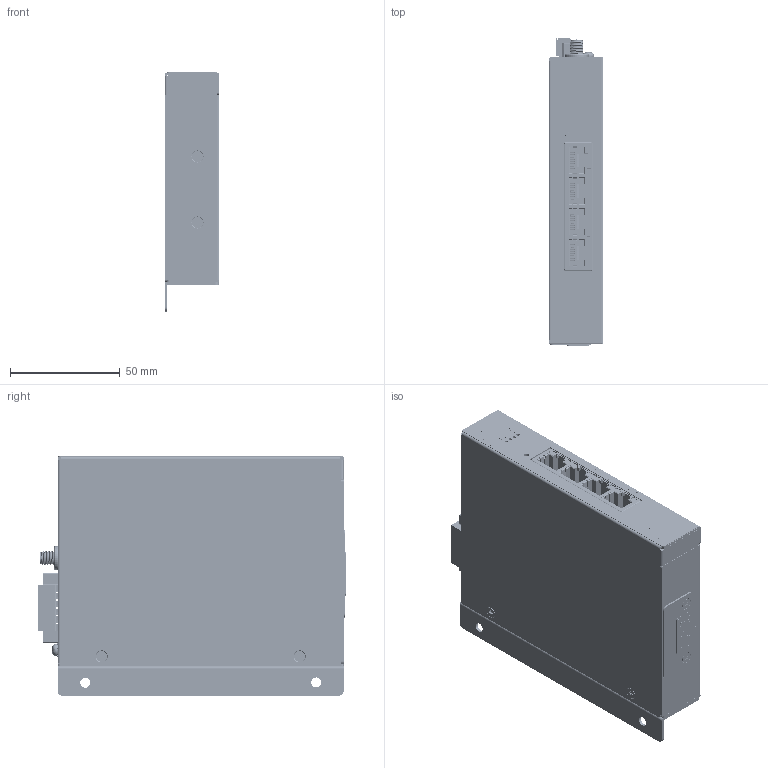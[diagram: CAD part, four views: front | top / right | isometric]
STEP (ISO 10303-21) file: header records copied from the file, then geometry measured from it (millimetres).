
FILE_DESCRIPTION (( 'STEP AP214' ), '1' );
FILE_NAME ('ICR-2501W_Wall_mount.STEP', '2024-10-03T13:38:45', ( '' ), ( '' ), 'SwSTEP 2.0', 'SolidWorks 2024', '' );
FILE_SCHEMA (( 'AUTOMOTIVE_DESIGN' ));
Length unit declared in the file: millimetre
Products named in the file (32): SCR_BK_M3_L5_PH_FL_TW_GLUE; SCR_BK_M3_L5_PH_FL_TW; Plug-In_Block_1x6P; VMC-2024-07-1_Label - DO NOT Insert SIM_A; PUSH_SW_3P; SCR_ZC_M3_L6_PH_PW_2; Pin_Header_5x2P; VMC-2024-07-1_Label - DO NOT Insert SIM; SCR_ZC_M3_L10_PH_BN; PCB-WIFI-20(4,5,6)xx; BTB_20P_Connector; Wall_mount_ICR-2(5,6)xx; Cover_for_ICR_25xx; SCR_ZC_M3_L6_PH_PW; LED_HOLDER_GGGG; Terminal_Block_1x6P; Chassis_for_ICR-25xx(G_W); B-ICR2501 A101-3; ICR-2501W_Wall_mount; Plate_for_SIM_ICR-2(0,4,5,6)xx; PCB_ICR-25(6)xx; Post_D3xL5; Washer_V2i_AUX_W; VMC-2024-07-1_Label - DO NOT Insert SIM_B; RJ45_1x4_8p_Connector; ICR-2501_FRONT_Label; SIM7155-6-1-14-A_PART1; SIM7155-6-1-14-A_PART2; BTB_20P_Conn; Micro_SIM_ card_Connector; SMA_1P; B-ICR-WIFI-20(4,5,6)xx-A107-1
Assembly tree (43 placements, depth 4):
  ICR-2501W_Wall_mount
    B-ICR2501 A101-3
      PCB_ICR-25(6)xx
      Micro_SIM_ card_Connector  x2
        SIM7155-6-1-14-A_PART1
        SIM7155-6-1-14-A_PART2
      Terminal_Block_1x6P
      RJ45_1x4_8p_Connector
      PUSH_SW_3P
      LED_HOLDER_GGGG  x2
      Pin_Header_5x2P
      BTB_20P_Connector
    B-ICR-WIFI-20(4,5,6)xx-A107-1
      PCB-WIFI-20(4,5,6)xx
      BTB_20P_Conn
      SMA_1P
      Post_D3xL5
    Chassis_for_ICR-25xx(G_W)
    Cover_for_ICR_25xx
    Plate_for_SIM_ICR-2(0,4,5,6)xx
    Washer_V2i_AUX_W
    Plug-In_Block_1x6P
    ICR-2501_FRONT_Label
    VMC-2024-07-1_Label - DO NOT Insert SIM
      VMC-2024-07-1_Label - DO NOT Insert SIM_A
      VMC-2024-07-1_Label - DO NOT Insert SIM_B  x2
    SCR_BK_M3_L5_PH_FL_TW  x5
    SCR_BK_M3_L5_PH_FL_TW_GLUE  x4
    SCR_ZC_M3_L6_PH_PW_2
    SCR_ZC_M3_L6_PH_PW  x3
    SCR_ZC_M3_L10_PH_BN
    Wall_mount_ICR-2(5,6)xx
Bounding box: 25 x 139.9 x 108.76 mm (x, y, z)
Volume: 73904.9 mm3; surface area: 150979.9 mm2
Topology: 248 solids, 254 shells, 18073 faces, 49122 edges, 31414 vertices
Faces by surface type: plane 13086, cylinder 3611, bspline 812, cone 293, sphere 184, torus 87
Entity records: 681685 total; most frequent: CARTESIAN_POINT 138483, ORIENTED_EDGE 88110, DIRECTION 80047, EDGE_CURVE 44055, VECTOR 35709, LINE 35709, VERTEX_POINT 28217, AXIS2_PLACEMENT_3D 22169
